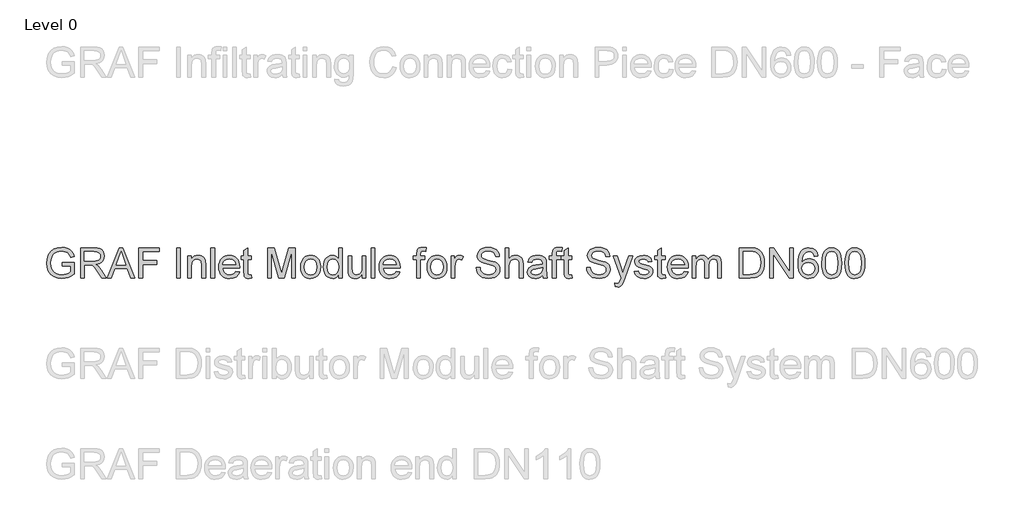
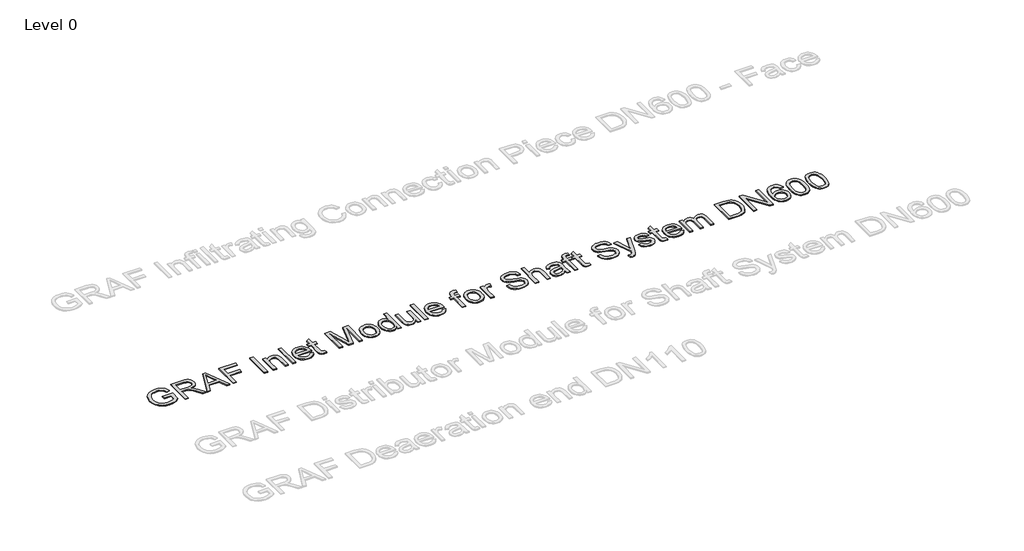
# One storey, part 8 of 25: 1 proxy.
"""IFC4 building model written with IfcOpenShell, lengths in millimetres."""

import ifcopenshell
import ifcopenshell.guid

model = None  # the IFC model being written
_history = None  # IfcOwnerHistory: only IFC2X3 demands one
_inside = {}  # id of a spatial element -> (the spatial element, [elements in it])
_under = {}  # id of a project, library or spatial element -> (it, [spatial elements below it])
_declared = {}  # id of a project -> (the project, [libraries it declares])
_typed = {}  # id of a type object -> (the type object, [elements of that type])
_made_of = {}  # id of a material, layer set ... -> (it, [elements and type objects made of it])


def new_model(schema):
    """Start an empty IFC model of exactly this schema.

    Asked for "IFC4X3", IfcOpenShell would pick the latest addendum, in which some entities
    have other attributes; the version numbers below select the first issue.
    IFC2X3 requires an IfcOwnerHistory on every rooted entity: one is made here for all.
    """
    global model, _history
    if schema == "IFC4X3":
        model = ifcopenshell.file(schema_version=(4, 3, 0, 0))
    else:
        model = ifcopenshell.file(schema=schema)
    _inside.clear()
    _under.clear()
    _declared.clear()
    _typed.clear()
    _made_of.clear()
    _history = None
    if model.schema == "IFC2X3":
        org = make("IfcOrganization", Name="unknown")
        user = make(
            "IfcPersonAndOrganization",
            ThePerson=make("IfcPerson", FamilyName="unknown"),
            TheOrganization=org,
        )
        app = make(
            "IfcApplication",
            ApplicationDeveloper=org,
            Version="unknown",
            ApplicationFullName="unknown",
            ApplicationIdentifier="unknown",
        )
        _history = make(
            "IfcOwnerHistory",
            OwningUser=user,
            OwningApplication=app,
            ChangeAction="ADDED",
            CreationDate=0,
        )
    return model


def make(cls, **values):
    """One entity of the class cls with the attributes given. An attribute that is None is left unset."""
    return model.create_entity(
        cls, **{name: value for name, value in values.items() if value is not None}
    )


def rooted(cls, **values):
    """An entity with a GlobalId (a new one), such as an element, a storey or a relation."""
    return make(cls, GlobalId=ifcopenshell.guid.new(), OwnerHistory=_history, **values)


def si_unit(unit_type, name, prefix=None):
    """IfcSIUnit, for example si_unit("LENGTHUNIT", "METRE", prefix="MILLI")."""
    return make("IfcSIUnit", UnitType=unit_type, Prefix=prefix, Name=name)


def assignment(units):
    """IfcUnitAssignment: the units of a project."""
    return None if units is None else make("IfcUnitAssignment", Units=units)


def point(xyz):
    """IfcCartesianPoint."""
    return None if xyz is None else make("IfcCartesianPoint", Coordinates=xyz)


def direction(xyz):
    """IfcDirection."""
    return None if xyz is None else make("IfcDirection", DirectionRatios=xyz)


def frame(location, z_axis=None, x_axis=None):
    """IfcAxis2Placement3D, a coordinate frame: its origin and axes. An axis left out is left unset."""
    return make(
        "IfcAxis2Placement3D",
        Location=point(location),
        Axis=direction(z_axis),
        RefDirection=direction(x_axis),
    )


def origin():
    """The frame at (0, 0, 0) with its axes left unset."""
    return frame((0.0, 0.0, 0.0))


def origin_with_axes():
    """The frame at (0, 0, 0) with the z axis (0, 0, 1) and the x axis (1, 0, 0) written out."""
    return frame((0.0, 0.0, 0.0), z_axis=(0.0, 0.0, 1.0), x_axis=(1.0, 0.0, 0.0))


def place(relative_to, where):
    """IfcLocalPlacement: puts the frame where relative to a parent placement (None: the world)."""
    return make(
        "IfcLocalPlacement", PlacementRelTo=relative_to, RelativePlacement=where
    )


def context(
    kind, dimensions, precision=None, world=None, true_north=None, identifier=None
):
    """IfcGeometricRepresentationContext, for example the 3D "Model" context."""
    return make(
        "IfcGeometricRepresentationContext",
        ContextIdentifier=identifier,
        ContextType=kind,
        CoordinateSpaceDimension=dimensions,
        Precision=precision,
        WorldCoordinateSystem=world,
        TrueNorth=true_north,
    )


def project(units=None, contexts=None):
    """IfcProject with its units and contexts."""
    return rooted(
        "IfcProject",
        Name="project",
        RepresentationContexts=contexts,
        UnitsInContext=assignment(units),
    )


def spatial(cls, under=None, at=None, **own):
    """A site, building, storey or space (cls), placed at a placement, below another one or the project."""
    s = rooted(cls, ObjectPlacement=at, **own)
    if under is not None:
        _under.setdefault(under.id(), (under, []))[1].append(s)
    return s


def polyline(points):
    """IfcPolyline through the points."""
    return make("IfcPolyline", Points=[point(p) for p in points])


def outline(outer, holes=None, kind="AREA"):
    """IfcArbitraryClosedProfileDef: a profile drawn as a closed curve; with holes, ...WithVoids."""
    if holes is None:
        return make("IfcArbitraryClosedProfileDef", ProfileType=kind, OuterCurve=outer)
    return make(
        "IfcArbitraryProfileDefWithVoids",
        ProfileType=kind,
        OuterCurve=outer,
        InnerCurves=holes,
    )


def extrude(swept, where, along, depth):
    """IfcExtrudedAreaSolid: the profile swept, set in the frame where, extruded along a direction by depth."""
    return make(
        "IfcExtrudedAreaSolid",
        SweptArea=swept,
        Position=where,
        ExtrudedDirection=direction(along),
        Depth=depth,
    )


def shape(context_of_items, identifier, shape_type, items):
    """IfcShapeRepresentation: the items that make up one representation, for example the "Body"."""
    return make(
        "IfcShapeRepresentation",
        ContextOfItems=context_of_items,
        RepresentationIdentifier=identifier,
        RepresentationType=shape_type,
        Items=items,
    )


def made_of(thing, what):
    """Note that an element or type object is made of a material, layer set ...; save() writes the relation."""
    if what is not None:
        _made_of.setdefault(what.id(), (what, []))[1].append(thing)
    return thing


def element(
    cls,
    number,
    at=None,
    inside=None,
    cuts=None,
    type_object=None,
    material=None,
    context=None,
    identifier="Body",
    shape_type=None,
    held_by="IfcProductDefinitionShape",
    body=None,
    shapes=None,
    **own,
):
    """One element of the class cls, such as IfcWall. Its Tag is "e" and its number.

    at: its placement. inside: the storey or other place that contains it. cuts: it is an
    opening in that element (IfcRelVoidsElement). A single representation is given by context,
    identifier, shape_type and body (its items); several are given by shapes. held_by: the class
    of the entity that holds the representations. save() writes the other relations.
    """
    e = rooted(cls, Tag="e%d" % number, ObjectPlacement=at, **own)
    if body is not None:
        shapes = [shape(context, identifier, shape_type, body)]
    if shapes is not None:
        e.Representation = make(held_by, Representations=shapes)
    if inside is not None:
        _inside.setdefault(inside.id(), (inside, []))[1].append(e)
    if cuts is not None:
        rooted(
            "IfcRelVoidsElement", RelatingBuildingElement=cuts, RelatedOpeningElement=e
        )
    if type_object is not None:
        _typed.setdefault(type_object.id(), (type_object, []))[1].append(e)
    return made_of(e, material)


def aggregate(whole, parts):
    """IfcRelAggregates: a whole, such as a stair, and the parts it consists of."""
    return rooted("IfcRelAggregates", RelatingObject=whole, RelatedObjects=parts)


def save(model, path):
    """Write the relations noted so far, then the file.

    IfcRelAggregates (storeys below a building ...), IfcRelContainedInSpatialStructure (elements
    in a storey), IfcRelDefinesByType, IfcRelAssociatesMaterial and IfcRelDeclares: one each for
    every whole, place, type object, material and project.
    """
    for whole, parts in _under.values():
        aggregate(whole, parts)
    for where, things in _inside.values():
        rooted(
            "IfcRelContainedInSpatialStructure",
            RelatedElements=things,
            RelatingStructure=where,
        )
    for kind, things in _typed.values():
        rooted("IfcRelDefinesByType", RelatedObjects=things, RelatingType=kind)
    for what, things in _made_of.values():
        rooted("IfcRelAssociatesMaterial", RelatedObjects=things, RelatingMaterial=what)
    for by, libraries in _declared.values():
        rooted("IfcRelDeclares", RelatingContext=by, RelatedDefinitions=libraries)
    model.write(path)


model = new_model("IFC4")

# Units and contexts
model_context = context("Model", 3, world=origin())
ifc_project = project(units=[si_unit("LENGTHUNIT", "METRE", prefix="MILLI")], contexts=[model_context])

# Site, building, storey
site = spatial("IfcSite", under=ifc_project)
building = spatial("IfcBuilding", under=site)
storey = spatial("IfcBuildingStorey", under=building, Name="Level 0", Elevation=0.0)

# Proxy
placement = place(None, origin())
element("IfcBuildingElementProxy", 1, Name="300mm Arial", ObjectType="300mm Arial", at=placement, inside=storey, context=model_context, shape_type="SweptSolid", body=[
    extrude(outline(polyline([(-15240.9940387, -4083.2545597), (-15240.9940387, -4045.5834434), (-15118.5629107, -4045.5834434), (-15118.5629107, -4158.2289103), (-15148.3153671, -4178.9222726), (-15179.0059225, -4193.7663111), (-15210.5610007, -4202.7058436), (-15242.9070251, -4205.6856877), (-15285.1674693, -4200.949207), (-15323.3628175, -4186.739765), (-15355.0926395, -4163.5540022), (-15377.9565055, -4131.8885595), (-15391.7796715, -4093.9047435), (-15396.3873935, -4051.7638609), (-15391.7980656, -4009.3194757), (-15378.0300819, -3969.8365406), (-15355.6536596, -3936.717964), (-15325.2390156, -3913.3666543), (-15288.1932987, -3899.5158972), (-15245.9236575, -3894.8989782), (-15214.8928112, -3897.5753197), (-15186.9889618, -3905.6043443), (-15163.4904994, -3918.4066377), (-15145.6758138, -3935.4027859), (-15132.4964413, -3957.4113262), (-15122.9039183, -3985.2507962), (-15157.6319786, -3995.0364573), (-15165.3850917, -3975.1800266), (-15174.8120678, -3960.1980323), (-15187.2832674, -3948.9040551), (-15204.169051, -3940.1116754), (-15224.3013932, -3934.4554897), (-15246.5122687, -3932.5700945), (-15272.5123287, -3934.6026425), (-15294.7415982, -3940.7002866), (-15313.1173039, -3950.0996716), (-15327.5566722, -3962.0374423), (-15346.9440533, -3991.0633317), (-15355.7732212, -4019.50061), (-15358.7162772, -4050.2187566), (-15355.175413, -4086.2436009), (-15344.5528204, -4115.8856927), (-15327.1703961, -4138.9334997), (-15303.3500369, -4155.1754898), (-15275.4737787, -4164.804801), (-15245.9236575, -4168.0145714), (-15219.831627, -4165.5957473), (-15194.3833899, -4158.3392749), (-15172.2828791, -4148.3420817), (-15156.234027, -4137.701095), (-15156.234027, -4083.2545597), (-15240.9940387, -4083.2545597)])), origin_with_axes(), (0.0, 0.0, 1.0), 10.0),
    extrude(outline(polyline([(-15057.3473467, -4200.9767982), (-15057.3473467, -3899.6078677), (-14927.4850024, -3899.6078677), (-14892.5821982, -3901.6404158), (-14867.1891434, -3907.7380598), (-14848.6294968, -3918.9952489), (-14834.2269167, -3936.5064318), (-14824.9838815, -3958.2206666), (-14821.9028698, -3982.087011), (-14827.0072325, -4011.7750881), (-14842.3203206, -4036.3863935), (-14853.9200997, -4046.4157764), (-14868.3019865, -4054.4310054), (-14905.4120827, -4064.4190016), (-14884.0013506, -4080.532233), (-14853.467145, -4119.3069952), (-14803.2144645, -4200.9767982), (-14846.9924219, -4200.9767982), (-14886.2086426, -4138.5104354), (-14914.5355562, -4097.1604991), (-14934.4379722, -4077.6259652), (-14952.3538253, -4070.4522663), (-14974.2060158, -4069.1278911), (-15019.6762304, -4069.1278911), (-15019.6762304, -4200.9767982), (-15057.3473467, -4200.9767982)]), holes=[polyline([(-15019.6762304, -4031.4567748), (-14935.3576771, -4031.4567748), (-14911.1418448, -4030.1232026), (-14892.3522719, -4026.1224859), (-14878.2072092, -4019.1879103), (-14867.9249074, -4009.0527613), (-14861.6617165, -3996.7930938), (-14859.5739861, -3983.4849626), (-14863.5563087, -3965.109257), (-14875.5032765, -3950.3020067), (-14896.058683, -3940.5347397), (-14925.8663217, -3937.278984), (-15019.6762304, -3937.278984), (-15019.6762304, -4031.4567748)])]), origin_with_axes(), (0.0, 0.0, 1.0), 10.0),
    extrude(outline(polyline([(-14791.0743586, -4200.9767982), (-14670.7769462, -3899.6078677), (-14638.6976362, -3899.6078677), (-14518.4002238, -4200.9767982), (-14558.2050557, -4200.9767982), (-14592.7123868, -4106.7990074), (-14716.835772, -4106.7990074), (-14751.2695268, -4200.9767982), (-14791.0743586, -4200.9767982)]), holes=[polyline([(-14703.003409, -4069.1278911), (-14606.4711735, -4069.1278911), (-14633.6208647, -3995.0364573), (-14654.7372912, -3937.278984), (-14673.499273, -3988.5617342), (-14703.003409, -4069.1278911)])]), origin_with_axes(), (0.0, 0.0, 1.0), 10.0),
    extrude(outline(polyline([(-14478.1539335, -4200.9767982), (-14478.1539335, -3899.6078677), (-14275.6716834, -3899.6078677), (-14275.6716834, -3937.278984), (-14440.4828172, -3937.278984), (-14440.4828172, -4026.7478853), (-14299.2161311, -4026.7478853), (-14299.2161311, -4064.4190016), (-14440.4828172, -4064.4190016), (-14440.4828172, -4200.9767982), (-14478.1539335, -4200.9767982)])), origin_with_axes(), (0.0, 0.0, 1.0), 10.0),
    extrude(outline(polyline([(-14101.4427705, -4200.9767982), (-14101.4427705, -3899.6078677), (-14063.7716542, -3899.6078677), (-14063.7716542, -4200.9767982), (-14101.4427705, -4200.9767982)])), origin_with_axes(), (0.0, 0.0, 1.0), 10.0),
    extrude(outline(polyline([(-13993.1383111, -4200.9767982), (-13993.1383111, -3979.6589899), (-13955.4671948, -3979.6589899), (-13955.4671948, -4010.5610775), (-13942.3797928, -3994.981275), (-13926.6620346, -3983.8528446), (-13908.3139201, -3977.1757864), (-13887.3354493, -3974.9501003), (-13868.7666056, -3976.7435251), (-13851.7612603, -3982.1237992), (-13837.5794094, -3990.4195382), (-13827.4810487, -4000.9593574), (-13816.1870714, -4028.6608716), (-13814.2005086, -4065.0811892), (-13814.2005086, -4200.9767982), (-13851.8716249, -4200.9767982), (-13851.8716249, -4070.1579607), (-13856.2126325, -4036.8278519), (-13862.2183061, -4026.9042351), (-13871.5533117, -4019.2063044), (-13883.5186736, -4014.2674886), (-13897.415416, -4012.6212166), (-13919.4791386, -4016.3184307), (-13938.2871056, -4027.4100729), (-13945.8033946, -4036.4645685), (-13951.1721725, -4048.8391991), (-13955.4671948, -4083.5488653), (-13955.4671948, -4200.9767982), (-13993.1383111, -4200.9767982)])), origin_with_axes(), (0.0, 0.0, 1.0), 10.0),
    extrude(outline(polyline([(-13762.4027237, -4200.9767982), (-13762.4027237, -3899.6078677), (-13724.7316074, -3899.6078677), (-13724.7316074, -4200.9767982), (-13762.4027237, -4200.9767982)])), origin_with_axes(), (0.0, 0.0, 1.0), 10.0),
    extrude(outline(polyline([(-13513.2730366, -4135.0523446), (-13476.3376843, -4139.7612342), (-13489.6458154, -4167.5915071), (-13510.8818036, -4188.3952339), (-13539.5674022, -4201.3630743), (-13575.2243646, -4205.6856877), (-13598.5986668, -4203.8209859), (-13619.4253863, -4198.2268803), (-13637.7045229, -4188.9033709), (-13653.4360768, -4175.8504579), (-13666.0866189, -4159.4314246), (-13675.1227204, -4140.0095545), (-13680.5443813, -4117.5848477), (-13682.3516016, -4092.157304), (-13680.5259872, -4065.8675369), (-13675.049144, -4042.6955698), (-13665.921072, -4022.6414025), (-13653.1417712, -4005.7050351), (-13637.4516041, -3992.2497512), (-13619.5909332, -3982.638834), (-13599.5597586, -3976.8722838), (-13577.3580801, -3974.9501003), (-13555.8714724, -3976.8676852), (-13536.4404052, -3982.6204399), (-13519.0648787, -3992.2083644), (-13503.7448929, -4005.6314587), (-13491.2392043, -4022.5310379), (-13482.3065696, -4042.548417), (-13476.9469888, -4065.6835959), (-13475.1604619, -4091.9365748), (-13475.3811911, -4102.0901179), (-13644.6804853, -4102.0901179), (-13638.1597769, -4130.2882728), (-13623.0122357, -4151.0184232), (-13601.1508482, -4163.7655344), (-13574.4886006, -4168.0145714), (-13554.4390318, -4166.0464027), (-13537.5532483, -4160.1418967), (-13523.8312498, -4149.9331713), (-13513.2730366, -4135.0523446)]), holes=[polyline([(-13644.6804853, -4064.4190016), (-13512.8315782, -4064.4190016), (-13517.9267438, -4044.5165856), (-13527.91474, -4030.2795524), (-13549.8772951, -4017.0358006), (-13577.5052329, -4012.6212166), (-13602.8982877, -4016.1436868), (-13623.8951525, -4026.7110971), (-13638.4908707, -4043.1830134), (-13644.6804853, -4064.4190016)])]), origin_with_axes(), (0.0, 0.0, 1.0), 10.0),
    extrude(outline(polyline([(-13357.4382234, -4169.5596758), (-13352.7293339, -4202.0804442), (-13380.9090947, -4205.6856877), (-13398.9904948, -4204.1221892), (-13412.4733699, -4199.4316938), (-13422.0015136, -4192.2028126), (-13428.2187193, -4183.0241568), (-13431.6400219, -4167.2604133), (-13432.780456, -4140.276269), (-13432.780456, -4017.3301062), (-13461.0337933, -4017.3301062), (-13461.0337933, -3979.6589899), (-13432.780456, -3979.6589899), (-13432.780456, -3925.8746422), (-13395.1093397, -3903.7281461), (-13395.1093397, -3979.6589899), (-13357.4382234, -3979.6589899), (-13357.4382234, -4017.3301062), (-13395.1093397, -4017.3301062), (-13395.1093397, -4139.172623), (-13393.122777, -4158.5967923), (-13386.684842, -4165.4761856), (-13373.8457604, -4168.0145714), (-13357.4382234, -4169.5596758)])), origin_with_axes(), (0.0, 0.0, 1.0), 10.0),
    extrude(outline(polyline([(-13197.3359791, -4200.9767982), (-13197.3359791, -3899.6078677), (-13132.5151716, -3899.6078677), (-13070.8581492, -4112.0229317), (-13058.4237378, -4156.3895004), (-13044.9592567, -4108.3441118), (-12984.3323039, -3899.6078677), (-12919.5114964, -3899.6078677), (-12919.5114964, -4200.9767982), (-12957.1826127, -4200.9767982), (-12957.1826127, -3937.278984), (-13032.8927273, -4200.9767982), (-13083.9547482, -4200.9767982), (-13159.6648628, -3937.278984), (-13159.6648628, -4200.9767982), (-13197.3359791, -4200.9767982)])), origin_with_axes(), (0.0, 0.0, 1.0), 10.0),
    extrude(outline(polyline([(-12867.7137115, -4090.317894), (-12865.6765649, -4061.6552881), (-12859.5651253, -4036.9566106), (-12849.3793925, -4016.2218617), (-12835.1193667, -3999.4510412), (-12820.7627718, -3988.7318796), (-12804.9162549, -3981.0753356), (-12787.5798159, -3976.4814091), (-12768.7534547, -3974.9501003), (-12747.9704213, -3976.8148022), (-12729.1785491, -3982.4089078), (-12712.3778383, -3991.7324171), (-12697.5682887, -4004.7853302), (-12685.4810659, -4021.1261885), (-12676.8473353, -4040.3135338), (-12671.667097, -4062.3473661), (-12669.9403508, -4087.2276853), (-12672.9937714, -4125.2850777), (-12682.1540331, -4154.2557848), (-12697.1544214, -4175.9516255), (-12717.728222, -4192.1844185), (-12742.1647835, -4202.3103704), (-12768.7534547, -4205.6856877), (-12789.8399909, -4203.8278836), (-12808.806607, -4198.2544714), (-12825.6533031, -4188.965451), (-12840.3800792, -4175.9608225), (-12852.3385433, -4159.461315), (-12860.8803034, -4139.6876578), (-12866.0053594, -4116.6398508), (-12867.7137115, -4090.317894)]), holes=[polyline([(-12830.0425951, -4090.2443176), (-12825.6831935, -4124.3377815), (-12812.6049886, -4148.6271903), (-12792.9233018, -4163.1677261), (-12768.7534547, -4168.0145714), (-12744.6939723, -4163.140135), (-12725.0490737, -4148.5168257), (-12711.9708688, -4123.9055202), (-12707.6114672, -4089.0670952), (-12711.9984599, -4055.9669127), (-12725.1594383, -4032.0085978), (-12744.831928, -4017.4680619), (-12768.7534547, -4012.6212166), (-12792.9233018, -4017.4496678), (-12812.6049886, -4031.9350214), (-12825.6831935, -4056.1692478), (-12830.0425951, -4090.2443176)])]), origin_with_axes(), (0.0, 0.0, 1.0), 10.0),
    extrude(outline(polyline([(-12491.0025484, -4200.9767982), (-12491.0025484, -4165.4393974), (-12502.273533, -4183.0471494), (-12515.9265536, -4195.6241151), (-12531.96161, -4203.1702946), (-12550.3787024, -4205.6856877), (-12574.7324905, -4202.043656), (-12597.0261394, -4191.1175607), (-12615.8984858, -4173.6707571), (-12629.9883662, -4150.4666002), (-12638.7623518, -4122.4431893), (-12641.6870136, -4090.5386232), (-12638.992278, -4059.0295303), (-12630.9080712, -4030.573858), (-12617.4435901, -4006.790287), (-12598.608032, -3989.2974982), (-12575.8269394, -3978.5369498), (-12550.5258552, -3974.9501003), (-12532.0949673, -3977.5160773), (-12515.7977949, -3985.214008), (-12501.9838259, -3997.013823), (-12491.0025484, -4011.8854527), (-12491.0025484, -3899.6078677), (-12453.3314321, -3899.6078677), (-12453.3314321, -4200.9767982), (-12491.0025484, -4200.9767982)]), holes=[polyline([(-12604.0158973, -4090.3914704), (-12599.7668603, -4124.4665402), (-12587.0197491, -4148.7007667), (-12568.4968907, -4163.1861202), (-12546.9206117, -4168.0145714), (-12525.3535297, -4163.4068494), (-12507.2997208, -4149.5836835), (-12495.0768415, -4126.2875561), (-12491.0025484, -4093.26095), (-12495.1504179, -4057.1533322), (-12507.5940264, -4032.1189624), (-12526.1076878, -4017.4956531), (-12548.465716, -4012.6212166), (-12570.2627243, -4017.302515), (-12588.1233951, -4031.3464102), (-12600.0427718, -4055.470272), (-12604.0158973, -4090.3914704)])]), origin_with_axes(), (0.0, 0.0, 1.0), 10.0),
    extrude(outline(polyline([(-12255.5580715, -4200.9767982), (-12255.5580715, -4162.9377999), (-12269.1880994, -4181.6400008), (-12285.0622075, -4194.9987158), (-12303.1803958, -4203.0139447), (-12323.5426642, -4205.6856877), (-12341.8907787, -4203.8094895), (-12358.9697003, -4198.180895), (-12373.298704, -4189.7196091), (-12383.3970648, -4179.3453369), (-12394.6174657, -4151.6070344), (-12396.8247576, -4116.5846685), (-12396.8247576, -3979.6589899), (-12359.1536413, -3979.6589899), (-12359.1536413, -4098.8527563), (-12356.8727729, -4137.2596366), (-12351.3821342, -4150.0711271), (-12341.9735521, -4159.8108029), (-12329.2724263, -4165.9636293), (-12313.9041559, -4168.0145714), (-12297.6529688, -4165.917644), (-12282.4502453, -4159.6268619), (-12269.9146663, -4149.7216392), (-12261.6649126, -4136.78139), (-12257.0847818, -4119.0586749), (-12255.5580715, -4094.8060544), (-12255.5580715, -3979.6589899), (-12217.8869552, -3979.6589899), (-12217.8869552, -4200.9767982), (-12255.5580715, -4200.9767982)])), origin_with_axes(), (0.0, 0.0, 1.0), 10.0),
    extrude(outline(polyline([(-12166.0891703, -4200.9767982), (-12166.0891703, -3899.6078677), (-12128.4180539, -3899.6078677), (-12128.4180539, -4200.9767982), (-12166.0891703, -4200.9767982)])), origin_with_axes(), (0.0, 0.0, 1.0), 10.0),
    extrude(outline(polyline([(-11916.9594831, -4135.0523446), (-11880.0241308, -4139.7612342), (-11893.332262, -4167.5915071), (-11914.5682501, -4188.3952339), (-11943.2538487, -4201.3630743), (-11978.9108111, -4205.6856877), (-12002.2851134, -4203.8209859), (-12023.1118328, -4198.2268803), (-12041.3909695, -4188.9033709), (-12057.1225233, -4175.8504579), (-12069.7730654, -4159.4314246), (-12078.8091669, -4140.0095545), (-12084.2308278, -4117.5848477), (-12086.0380481, -4092.157304), (-12084.2124337, -4065.8675369), (-12078.7355905, -4042.6955698), (-12069.6075185, -4022.6414025), (-12056.8282177, -4005.7050351), (-12041.1380506, -3992.2497512), (-12023.2773797, -3982.638834), (-12003.2462051, -3976.8722838), (-11981.0445267, -3974.9501003), (-11959.5579189, -3976.8676852), (-11940.1268518, -3982.6204399), (-11922.7513253, -3992.2083644), (-11907.4313394, -4005.6314587), (-11894.9256509, -4022.5310379), (-11885.9930162, -4042.548417), (-11880.6334354, -4065.6835959), (-11878.8469084, -4091.9365748), (-11879.0676376, -4102.0901179), (-12048.3669318, -4102.0901179), (-12041.8462234, -4130.2882728), (-12026.6986823, -4151.0184232), (-12004.8372947, -4163.7655344), (-11978.1750471, -4168.0145714), (-11958.1254784, -4166.0464027), (-11941.2396948, -4160.1418967), (-11927.5176964, -4149.9331713), (-11916.9594831, -4135.0523446)]), holes=[polyline([(-12048.3669318, -4064.4190016), (-11916.5180247, -4064.4190016), (-11921.6131904, -4044.5165856), (-11931.6011865, -4030.2795524), (-11953.5637416, -4017.0358006), (-11981.1916795, -4012.6212166), (-12006.5847342, -4016.1436868), (-12027.5815991, -4026.7110971), (-12042.1773172, -4043.1830134), (-12048.3669318, -4064.4190016)])]), origin_with_axes(), (0.0, 0.0, 1.0), 10.0),
    extrude(outline(polyline([(-11714.0357746, -4200.9767982), (-11714.0357746, -4017.3301062), (-11746.9980013, -4017.3301062), (-11746.9980013, -3979.6589899), (-11714.0357746, -3979.6589899), (-11714.0357746, -3957.365341), (-11710.062649, -3925.9482186), (-11702.4842799, -3913.4218366), (-11690.7856325, -3903.5074169), (-11674.4148837, -3897.0510879), (-11652.8202106, -3894.8989782), (-11618.4600322, -3899.0192565), (-11623.9782622, -3934.3359281), (-11645.6832999, -3932.5700945), (-11660.0031065, -3934.133593), (-11669.4116886, -3938.8240884), (-11674.6264158, -3947.782015), (-11676.3646583, -3962.1478069), (-11676.3646583, -3979.6589899), (-11633.9846524, -3979.6589899), (-11633.9846524, -4017.3301062), (-11676.3646583, -4017.3301062), (-11676.3646583, -4200.9767982), (-11714.0357746, -4200.9767982)])), origin_with_axes(), (0.0, 0.0, 1.0), 10.0),
    extrude(outline(polyline([(-11610.4402047, -4090.317894), (-11608.4030582, -4061.6552881), (-11602.2916185, -4036.9566106), (-11592.1058858, -4016.2218617), (-11577.84586, -3999.4510412), (-11563.4892651, -3988.7318796), (-11547.6427482, -3981.0753356), (-11530.3063091, -3976.4814091), (-11511.479948, -3974.9501003), (-11490.6969146, -3976.8148022), (-11471.9050424, -3982.4089078), (-11455.1043315, -3991.7324171), (-11440.294782, -4004.7853302), (-11428.2075592, -4021.1261885), (-11419.5738286, -4040.3135338), (-11414.3935902, -4062.3473661), (-11412.6668441, -4087.2276853), (-11415.7202647, -4125.2850777), (-11424.8805264, -4154.2557848), (-11439.8809147, -4175.9516255), (-11460.4547153, -4192.1844185), (-11484.8912768, -4202.3103704), (-11511.479948, -4205.6856877), (-11532.5664841, -4203.8278836), (-11551.5331003, -4198.2544714), (-11568.3797964, -4188.965451), (-11583.1065725, -4175.9608225), (-11595.0650366, -4159.461315), (-11603.6067967, -4139.6876578), (-11608.7318527, -4116.6398508), (-11610.4402047, -4090.317894)]), holes=[polyline([(-11572.7690884, -4090.2443176), (-11568.4096868, -4124.3377815), (-11555.3314819, -4148.6271903), (-11535.6497951, -4163.1677261), (-11511.479948, -4168.0145714), (-11487.4204655, -4163.140135), (-11467.775567, -4148.5168257), (-11454.6973621, -4123.9055202), (-11450.3379604, -4089.0670952), (-11454.7249532, -4055.9669127), (-11467.8859316, -4032.0085978), (-11487.5584213, -4017.4680619), (-11511.479948, -4012.6212166), (-11535.6497951, -4017.4496678), (-11555.3314819, -4031.9350214), (-11568.4096868, -4056.1692478), (-11572.7690884, -4090.2443176)])]), origin_with_axes(), (0.0, 0.0, 1.0), 10.0),
    extrude(outline(polyline([(-11370.2868383, -4200.9767982), (-11370.2868383, -3979.6589899), (-11337.3246115, -3979.6589899), (-11337.3246115, -4012.4004875), (-11325.1477175, -3993.4177765), (-11313.9273166, -3982.2341638), (-11302.6701276, -3976.7711162), (-11290.3828689, -3974.9501003), (-11271.6208872, -3977.8563681), (-11252.5645998, -3986.5751714), (-11265.1461641, -4020.3467385), (-11278.3899159, -4014.5525971), (-11291.6336677, -4012.6212166), (-11302.8816597, -4014.4790207), (-11312.9340352, -4020.052433), (-11321.0550303, -4028.918389), (-11326.5088809, -4040.6538247), (-11331.0890117, -4061.6966748), (-11332.615722, -4084.6525113), (-11332.615722, -4200.9767982), (-11370.2868383, -4200.9767982)])), origin_with_axes(), (0.0, 0.0, 1.0), 10.0),
    extrude(outline(polyline([(-11120.7156928, -4097.3812283), (-11083.0445764, -4097.3812283), (-11078.721963, -4118.2861227), (-11070.9044706, -4135.0891328), (-11058.7091825, -4148.4248552), (-11041.2531818, -4158.9278861), (-11019.9160261, -4165.7429001), (-10996.0772728, -4168.0145714), (-10975.089605, -4166.2947231), (-10956.7138993, -4161.1351781), (-10941.8238756, -4152.9681978), (-10931.2932534, -4142.2260435), (-10925.0300625, -4129.8927997), (-10922.9423321, -4116.9525505), (-10924.5058306, -4104.3433951), (-10929.1963261, -4093.444891), (-10938.7244697, -4084.1466736), (-10954.8009129, -4076.3383782), (-11009.6521184, -4061.9541922), (-11045.6585687, -4052.4352456), (-11068.6971786, -4043.3761514), (-11087.4499633, -4030.7026167), (-11100.7397004, -4015.3435434), (-11108.6583604, -3997.6300253), (-11111.2979137, -3977.8931563), (-11108.032961, -3955.8294336), (-11098.2381029, -3935.2556331), (-11082.1708567, -3917.8180265), (-11060.08874, -3905.1628859), (-11033.5828422, -3897.4649551), (-11004.2442531, -3894.8989782), (-10972.4592487, -3897.5845168), (-10944.6473699, -3905.6411325), (-10921.801898, -3918.9032784), (-10904.9161144, -3937.2054076), (-10894.2291424, -3959.407086), (-10889.9801054, -3984.3678794), (-10927.6512217, -3984.3678794), (-10934.5674032, -3961.8902895), (-10948.9883774, -3945.6666935), (-10971.5211496, -3935.8442443), (-11002.7727251, -3932.5700945), (-11034.7600646, -3935.8074561), (-11056.7042256, -3945.5195407), (-11069.3961544, -3959.8117562), (-11073.6267974, -3976.7895103), (-11070.6285591, -3991.2656668), (-11061.6338443, -4002.909132), (-11040.370265, -4013.3201924), (-11000.1239747, -4023.9519821), (-10958.5900975, -4034.0503429), (-10933.4637572, -4042.8611167), (-10911.9886457, -4056.5279328), (-10897.0066515, -4073.3953223), (-10888.2050748, -4093.2793441), (-10885.2712158, -4115.9960573), (-10888.6465331, -4139.2186082), (-10898.7724851, -4161.0616017), (-10915.2352043, -4179.8603717), (-10937.6208238, -4193.9502521), (-10964.5405888, -4202.7518288), (-10994.6057448, -4205.6856877), (-11031.513506, -4202.5219026), (-11061.8913617, -4193.0305471), (-11086.0888, -4177.1748331), (-11104.4553086, -4154.9179724), (-11116.2459265, -4127.8050693), (-11120.7156928, -4097.3812283)])), origin_with_axes(), (0.0, 0.0, 1.0), 10.0),
    extrude(outline(polyline([(-10833.4734309, -4200.9767982), (-10833.4734309, -3899.6078677), (-10795.8023146, -3899.6078677), (-10795.8023146, -4010.4139247), (-10781.9653531, -3994.8985015), (-10766.4269373, -3983.8160564), (-10749.1870673, -3977.1665894), (-10730.2457431, -3974.9501003), (-10707.4922417, -3977.3689245), (-10687.9393136, -3984.6253968), (-10672.5434521, -3996.1493003), (-10662.2611504, -4011.3704179), (-10656.4670089, -4032.2845093), (-10654.5356285, -4060.8873344), (-10654.5356285, -4200.9767982), (-10692.2067448, -4200.9767982), (-10692.2067448, -4064.7868836), (-10695.204983, -4041.2056477), (-10704.1996978, -4025.0556281), (-10718.6942484, -4015.7298195), (-10738.1919942, -4012.6212166), (-10754.1120875, -4014.718144), (-10769.0572936, -4021.0089261), (-10781.4365227, -4030.8865577), (-10789.6586853, -4043.7440334), (-10794.2664073, -4060.8321521), (-10795.8023146, -4083.4017125), (-10795.8023146, -4200.9767982), (-10833.4734309, -4200.9767982)])), origin_with_axes(), (0.0, 0.0, 1.0), 10.0),
    extrude(outline(polyline([(-10461.4711574, -4172.7234609), (-10479.469784, -4188.1561106), (-10498.0018395, -4198.2544714), (-10517.4903882, -4203.8278836), (-10538.3584944, -4205.6856877), (-10569.8399961, -4201.2159215), (-10593.0625471, -4187.8066228), (-10607.3823537, -4167.4443543), (-10612.1556226, -4142.1156789), (-10610.3530008, -4126.4990883), (-10604.9451355, -4112.3172373), (-10596.6034113, -4100.1771315), (-10585.9992128, -4090.685776), (-10559.6220737, -4078.324941), (-10527.0277289, -4072.6595583), (-10488.510484, -4066.6998699), (-10461.6918866, -4059.710112), (-10461.4711574, -4051.3224025), (-10464.0647255, -4034.5101954), (-10471.8454297, -4023.5105237), (-10489.246248, -4015.3435434), (-10513.4896715, -4012.6212166), (-10535.9304732, -4014.4330355), (-10551.6022462, -4019.868492), (-10562.2892182, -4029.9208675), (-10569.7756168, -4045.5834434), (-10607.4467331, -4040.8745539), (-10600.9076306, -4020.2731621), (-10591.1495607, -4004.0863544), (-10577.2620154, -3991.7071252), (-10558.3344867, -3982.5284694), (-10535.1855122, -3976.8446926), (-10508.6336292, -3974.9501003), (-10483.1669981, -3976.6239634), (-10462.9794736, -3981.6455527), (-10447.758356, -3989.1963306), (-10437.1909457, -3998.4577598), (-10430.1827937, -4009.9080869), (-10425.6394511, -4024.0255585), (-10423.8000411, -4056.9877853), (-10423.8000411, -4103.8559515), (-10421.8870547, -4169.3021584), (-10414.382262, -4200.9767982), (-10452.0533783, -4200.9767982), (-10461.4711574, -4172.7234609)]), holes=[polyline([(-10461.4711574, -4097.3812283), (-10522.245263, -4108.932723), (-10554.6556668, -4115.0395641), (-10569.3341584, -4124.972378), (-10574.4845063, -4139.4669286), (-10571.6794061, -4150.6689353), (-10563.2641055, -4159.8475911), (-10549.4225454, -4165.9728263), (-10530.3386669, -4168.0145714), (-10510.1051572, -4165.7612942), (-10492.2260922, -4159.0014625), (-10477.7315416, -4149.0410575), (-10467.6515749, -4137.1860602), (-10463.1818087, -4124.972378), (-10461.6918866, -4108.0498062), (-10461.4711574, -4097.3812283)])]), origin_with_axes(), (0.0, 0.0, 1.0), 10.0),
    extrude(outline(polyline([(-10362.5844771, -4200.9767982), (-10362.5844771, -4017.3301062), (-10395.5467039, -4017.3301062), (-10395.5467039, -3979.6589899), (-10362.5844771, -3979.6589899), (-10362.5844771, -3957.365341), (-10358.6113515, -3925.9482186), (-10351.0329824, -3913.4218366), (-10339.334335, -3903.5074169), (-10322.9635862, -3897.0510879), (-10301.3689131, -3894.8989782), (-10267.0087347, -3899.0192565), (-10272.5269647, -3934.3359281), (-10294.2320024, -3932.5700945), (-10308.5518091, -3934.133593), (-10317.9603911, -3938.8240884), (-10323.1751184, -3947.782015), (-10324.9133608, -3962.1478069), (-10324.9133608, -3979.6589899), (-10282.5333549, -3979.6589899), (-10282.5333549, -4017.3301062), (-10324.9133608, -4017.3301062), (-10324.9133608, -4200.9767982), (-10362.5844771, -4200.9767982)])), origin_with_axes(), (0.0, 0.0, 1.0), 10.0),
    extrude(outline(polyline([(-10169.520006, -4169.5596758), (-10164.8111165, -4202.0804442), (-10192.9908773, -4205.6856877), (-10211.0722774, -4204.1221892), (-10224.5551525, -4199.4316938), (-10234.0832962, -4192.2028126), (-10240.3005019, -4183.0241568), (-10243.7218045, -4167.2604133), (-10244.8622386, -4140.276269), (-10244.8622386, -4017.3301062), (-10273.1155759, -4017.3301062), (-10273.1155759, -3979.6589899), (-10244.8622386, -3979.6589899), (-10244.8622386, -3925.8746422), (-10207.1911223, -3903.7281461), (-10207.1911223, -3979.6589899), (-10169.520006, -3979.6589899), (-10169.520006, -4017.3301062), (-10207.1911223, -4017.3301062), (-10207.1911223, -4139.172623), (-10205.2045596, -4158.5967923), (-10198.7666246, -4165.4761856), (-10185.927543, -4168.0145714), (-10169.520006, -4169.5596758)])), origin_with_axes(), (0.0, 0.0, 1.0), 10.0),
    extrude(outline(polyline([(-10023.5444303, -4097.3812283), (-9985.873314, -4097.3812283), (-9981.5507006, -4118.2861227), (-9973.7332082, -4135.0891328), (-9961.5379201, -4148.4248552), (-9944.0819194, -4158.9278861), (-9922.7447637, -4165.7429001), (-9898.9060104, -4168.0145714), (-9877.9183425, -4166.2947231), (-9859.5426369, -4161.1351781), (-9844.6526131, -4152.9681978), (-9834.121991, -4142.2260435), (-9827.8588001, -4129.8927997), (-9825.7710697, -4116.9525505), (-9827.3345682, -4104.3433951), (-9832.0250637, -4093.444891), (-9841.5532073, -4084.1466736), (-9857.6296505, -4076.3383782), (-9912.480856, -4061.9541922), (-9948.4873063, -4052.4352456), (-9971.5259162, -4043.3761514), (-9990.2787009, -4030.7026167), (-10003.568438, -4015.3435434), (-10011.4870979, -3997.6300253), (-10014.1266513, -3977.8931563), (-10010.8616986, -3955.8294336), (-10001.0668404, -3935.2556331), (-9984.9995943, -3917.8180265), (-9962.9174775, -3905.1628859), (-9936.4115798, -3897.4649551), (-9907.0729907, -3894.8989782), (-9875.2879863, -3897.5845168), (-9847.4761074, -3905.6411325), (-9824.6306355, -3918.9032784), (-9807.744852, -3937.2054076), (-9797.05788, -3959.407086), (-9792.808843, -3984.3678794), (-9830.4799593, -3984.3678794), (-9837.3961408, -3961.8902895), (-9851.817115, -3945.6666935), (-9874.3498872, -3935.8442443), (-9905.6014627, -3932.5700945), (-9937.5888022, -3935.8074561), (-9959.5329632, -3945.5195407), (-9972.224892, -3959.8117562), (-9976.455535, -3976.7895103), (-9973.4572967, -3991.2656668), (-9964.4625819, -4002.909132), (-9943.1990026, -4013.3201924), (-9902.9527123, -4023.9519821), (-9861.4188351, -4034.0503429), (-9836.2924948, -4042.8611167), (-9814.8173833, -4056.5279328), (-9799.8353891, -4073.3953223), (-9791.0338123, -4093.2793441), (-9788.0999534, -4115.9960573), (-9791.4752707, -4139.2186082), (-9801.6012227, -4161.0616017), (-9818.0639419, -4179.8603717), (-9840.4495613, -4193.9502521), (-9867.3693263, -4202.7518288), (-9897.4344824, -4205.6856877), (-9934.3422436, -4202.5219026), (-9964.7200993, -4193.0305471), (-9988.9175375, -4177.1748331), (-10007.2840462, -4154.9179724), (-10019.0746641, -4127.8050693), (-10023.5444303, -4097.3812283)])), origin_with_axes(), (0.0, 0.0, 1.0), 10.0),
    extrude(outline(polyline([(-9736.3021685, -4285.7368099), (-9741.011058, -4249.4636451), (-9721.8811943, -4252.7745831), (-9704.0021293, -4248.6175166), (-9693.0392459, -4237.0292337), (-9682.73855, -4209.2909313), (-9679.795494, -4200.1674578), (-9759.8466162, -3979.6589899), (-9720.1153607, -3979.6589899), (-9677.6617785, -4102.5315763), (-9662.8729223, -4151.6806108), (-9648.0840661, -4108.2705354), (-9604.4532614, -3979.6589899), (-9565.0163116, -3979.6589899), (-9642.0508013, -4206.2742989), (-9662.0635819, -4255.4233335), (-9672.3090954, -4271.1135006), (-9683.9157724, -4281.9844135), (-9697.3986475, -4288.3303779), (-9713.2727556, -4290.4456994), (-9736.3021685, -4285.7368099)])), origin_with_axes(), (0.0, 0.0, 1.0), 10.0),
    extrude(outline(polyline([(-9547.946587, -4135.0523446), (-9510.2754707, -4130.3434551), (-9504.3341764, -4146.4566865), (-9492.8378641, -4158.3024867), (-9475.7129572, -4165.5865502), (-9452.8858794, -4168.0145714), (-9430.3347131, -4165.7888853), (-9414.4789991, -4159.1118271), (-9405.0980082, -4149.4365307), (-9401.9710113, -4138.2161298), (-9405.1164023, -4128.6144097), (-9414.5525755, -4121.293558), (-9453.3273378, -4110.5514038), (-9510.0547415, -4092.1205158), (-9524.4113363, -4082.8590866), (-9534.8131997, -4070.5994191), (-9541.131573, -4056.1232626), (-9543.2376974, -4040.2123663), (-9541.5454403, -4025.6166481), (-9536.4686687, -4012.1429701), (-9528.4672353, -4000.324761), (-9518.0009926, -3990.6954497), (-9494.0518747, -3979.5486253), (-9461.6414709, -3974.9501003), (-9437.1221359, -3976.7987074), (-9415.8033743, -3982.3445284), (-9398.6600733, -3991.0449376), (-9386.6671203, -4002.357309), (-9378.7208692, -4017.118574), (-9373.7176741, -4036.1656643), (-9411.3887904, -4040.8745539), (-9416.1436652, -4029.0195566), (-9425.5522472, -4020.0892211), (-9439.7065069, -4014.4882178), (-9458.6984149, -4012.6212166), (-9480.3298763, -4014.4054443), (-9494.7508505, -4019.7581274), (-9502.8626485, -4027.4836493), (-9505.5665811, -4036.3863935), (-9501.0784208, -4047.349277), (-9487.0253286, -4055.6634101), (-9454.5781366, -4063.6832376), (-9399.2854727, -4081.4151497), (-9384.6805575, -4089.8948297), (-9373.6073095, -4101.5015067), (-9366.6267486, -4116.2719688), (-9364.299895, -4134.2430043), (-9367.0314188, -4152.821045), (-9375.2259902, -4170.2954398), (-9388.5709096, -4185.2958281), (-9406.7534772, -4196.4518496), (-9428.7160323, -4203.3772282), (-9453.4009142, -4205.6856877), (-9491.3847302, -4201.2343156), (-9519.1046386, -4187.8801991), (-9537.6091029, -4165.7704912), (-9547.946587, -4135.0523446)])), origin_with_axes(), (0.0, 0.0, 1.0), 10.0),
    extrude(outline(polyline([(-9241.868767, -4169.5596758), (-9237.1598775, -4202.0804442), (-9265.3396383, -4205.6856877), (-9283.4210383, -4204.1221892), (-9296.9039135, -4199.4316938), (-9306.4320571, -4192.2028126), (-9312.6492629, -4183.0241568), (-9316.0705654, -4167.2604133), (-9317.2109996, -4140.276269), (-9317.2109996, -4017.3301062), (-9345.4643368, -4017.3301062), (-9345.4643368, -3979.6589899), (-9317.2109996, -3979.6589899), (-9317.2109996, -3925.8746422), (-9279.5398833, -3903.7281461), (-9279.5398833, -3979.6589899), (-9241.868767, -3979.6589899), (-9241.868767, -4017.3301062), (-9279.5398833, -4017.3301062), (-9279.5398833, -4139.172623), (-9277.5533205, -4158.5967923), (-9271.1153856, -4165.4761856), (-9258.276304, -4168.0145714), (-9241.868767, -4169.5596758)])), origin_with_axes(), (0.0, 0.0, 1.0), 10.0),
    extrude(outline(polyline([(-9049.2457543, -4135.0523446), (-9012.310402, -4139.7612342), (-9025.6185332, -4167.5915071), (-9046.8545213, -4188.3952339), (-9075.5401199, -4201.3630743), (-9111.1970823, -4205.6856877), (-9134.5713846, -4203.8209859), (-9155.398104, -4198.2268803), (-9173.6772407, -4188.9033709), (-9189.4087945, -4175.8504579), (-9202.0593366, -4159.4314246), (-9211.0954381, -4140.0095545), (-9216.517099, -4117.5848477), (-9218.3243193, -4092.157304), (-9216.4987049, -4065.8675369), (-9211.0218617, -4042.6955698), (-9201.8937897, -4022.6414025), (-9189.1144889, -4005.7050351), (-9173.4243218, -3992.2497512), (-9155.5636509, -3982.638834), (-9135.5324763, -3976.8722838), (-9113.3307979, -3974.9501003), (-9091.8441901, -3976.8676852), (-9072.413123, -3982.6204399), (-9055.0375965, -3992.2083644), (-9039.7176106, -4005.6314587), (-9027.2119221, -4022.5310379), (-9018.2792874, -4042.548417), (-9012.9197066, -4065.6835959), (-9011.1331796, -4091.9365748), (-9011.3539088, -4102.0901179), (-9180.653203, -4102.0901179), (-9174.1324946, -4130.2882728), (-9158.9849535, -4151.0184232), (-9137.1235659, -4163.7655344), (-9110.4613183, -4168.0145714), (-9090.4117496, -4166.0464027), (-9073.525966, -4160.1418967), (-9059.8039676, -4149.9331713), (-9049.2457543, -4135.0523446)]), holes=[polyline([(-9180.653203, -4064.4190016), (-9048.8042959, -4064.4190016), (-9053.8994616, -4044.5165856), (-9063.8874577, -4030.2795524), (-9085.8500128, -4017.0358006), (-9113.4779507, -4012.6212166), (-9138.8710054, -4016.1436868), (-9159.8678703, -4026.7110971), (-9174.4635884, -4043.1830134), (-9180.653203, -4064.4190016)])]), origin_with_axes(), (0.0, 0.0, 1.0), 10.0),
    extrude(outline(polyline([(-8973.4620633, -4200.9767982), (-8973.4620633, -3979.6589899), (-8935.790947, -3979.6589899), (-8935.790947, -4016.0793074), (-8924.4601816, -3999.3498737), (-8909.8920545, -3986.2440776), (-8892.5832067, -3977.7735947), (-8873.0302786, -3974.9501003), (-8852.079399, -3977.828777), (-8835.2855859, -3986.4648068), (-8822.7408099, -4000.2879728), (-8814.5370414, -4018.7280578), (-8800.8058459, -3999.5752014), (-8785.14327, -3985.8945897), (-8767.5493136, -3977.6862227), (-8748.0239767, -3974.9501003), (-8719.7062601, -3979.50264), (-8698.7645775, -3993.1602591), (-8685.8243283, -4016.2908395), (-8681.5109119, -4049.2622634), (-8681.5109119, -4200.9767982), (-8719.1820282, -4200.9767982), (-8719.1820282, -4065.4490712), (-8722.6769072, -4033.9951606), (-8727.5881318, -4025.3223425), (-8735.3320478, -4018.5073286), (-8745.2924528, -4014.0927446), (-8756.8531445, -4012.6212166), (-8777.2613982, -4016.3920071), (-8793.8988615, -4027.7043784), (-8804.9629125, -4047.3308829), (-8808.6509295, -4076.0440726), (-8808.6509295, -4200.9767982), (-8846.3220458, -4200.9767982), (-8846.3220458, -4061.2552164), (-8848.5017466, -4039.9548489), (-8855.0408491, -4024.7613225), (-8866.5463585, -4015.6562431), (-8883.6252801, -4012.6212166), (-8898.1382248, -4014.6445676), (-8911.5107353, -4020.7146205), (-8922.5471952, -4030.6842226), (-8930.0519879, -4044.406221), (-8934.3562072, -4063.4441143), (-8935.790947, -4089.3614008), (-8935.790947, -4200.9767982), (-8973.4620633, -4200.9767982)])), origin_with_axes(), (0.0, 0.0, 1.0), 10.0),
    extrude(outline(polyline([(-8502.5731095, -4200.9767982), (-8502.5731095, -3899.6078677), (-8398.6096576, -3899.6078677), (-8344.8253099, -3903.9488753), (-8320.8026157, -3912.3181907), (-8300.5323177, -3925.5067602), (-8279.6918027, -3948.4625967), (-8264.8477642, -3977.0102395), (-8255.963414, -4010.5978657), (-8253.001964, -4048.6736522), (-8255.0069208, -4081.0196766), (-8261.0217914, -4109.484546), (-8270.1820531, -4133.7187724), (-8281.6231832, -4153.372868), (-8294.7933586, -4168.8882911), (-8309.1407564, -4180.7065002), (-8325.6126728, -4189.4712888), (-8345.1564037, -4195.8264502), (-8393.6064625, -4200.9767982), (-8502.5731095, -4200.9767982)]), holes=[polyline([(-8464.9019932, -4163.3056819), (-8398.2417756, -4163.3056819), (-8370.6690201, -4161.9445185), (-8349.7549287, -4157.8610283), (-8333.9727911, -4151.2943347), (-8321.7958971, -4142.4835609), (-8308.7084951, -4126.1771915), (-8298.8768488, -4105.069962), (-8292.7240224, -4079.069902), (-8290.6730803, -4048.085041), (-8294.6921911, -4007.0294103), (-8306.7495234, -3976.7159339), (-8324.5642091, -3955.893813), (-8345.8553795, -3943.3122488), (-8367.5236291, -3938.7873002), (-8399.2718452, -3937.278984), (-8464.9019932, -3937.278984), (-8464.9019932, -4163.3056819)])]), origin_with_axes(), (0.0, 0.0, 1.0), 10.0),
    extrude(outline(polyline([(-8201.204179, -4200.9767982), (-8201.204179, -3899.6078677), (-8160.8843124, -3899.6078677), (-8003.4308184, -4138.3632826), (-8003.4308184, -3899.6078677), (-7965.7597021, -3899.6078677), (-7965.7597021, -4200.9767982), (-8006.0795688, -4200.9767982), (-8163.5330627, -3962.1478069), (-8163.5330627, -4200.9767982), (-8201.204179, -4200.9767982)])), origin_with_axes(), (0.0, 0.0, 1.0), 10.0),
    extrude(outline(polyline([(-7720.8974461, -3979.6589899), (-7758.5685624, -3984.3678794), (-7764.6386154, -3965.6978682), (-7772.8423838, -3952.950757), (-7789.9305025, -3941.1969273), (-7810.5870766, -3937.278984), (-7828.0982595, -3939.5598524), (-7844.5793729, -3946.4024575), (-7858.7336327, -3960.8142347), (-7870.2943244, -3980.6522713), (-7878.1026197, -4008.7124704), (-7880.9996904, -4047.7907354), (-7865.8889375, -4030.1599908), (-7847.7799463, -4017.7347764), (-7827.6843923, -4010.3679394), (-7806.613951, -4007.9123271), (-7788.5141568, -4009.5907887), (-7771.8123143, -4014.6261735), (-7756.5084233, -4023.0184815), (-7742.6024838, -4034.7677128), (-7731.0463907, -4049.1748914), (-7722.7920384, -4065.5410417), (-7717.839427, -4083.8661635), (-7716.1885566, -4104.150257), (-7719.2971595, -4131.1252043), (-7728.622968, -4156.131983), (-7743.3934301, -4177.34038), (-7762.8359936, -4192.9201825), (-7786.0677416, -4202.4943114), (-7812.2057573, -4205.6856877), (-7834.6626539, -4203.5703662), (-7854.9444481, -4197.2244018), (-7873.0511401, -4186.6477945), (-7888.9827297, -4171.8405442), (-7901.9712634, -4152.1772515), (-7911.2487875, -4127.0325171), (-7916.8153019, -4096.406341), (-7918.6708067, -4060.2987232), (-7916.6106676, -4019.8179082), (-7910.43025, -3985.2691903), (-7900.1295542, -3956.6525696), (-7885.70858, -3933.9680461), (-7870.0781937, -3918.9354681), (-7851.9554069, -3908.1979123), (-7831.3402196, -3901.7553789), (-7808.2326318, -3899.6078677), (-7775.1784345, -3904.9237626), (-7748.709325, -3920.8714471), (-7730.1680724, -3946.2001224), (-7720.8974461, -3979.6589899)]), holes=[polyline([(-7880.9996904, -4103.5616459), (-7878.8199896, -4120.2542914), (-7872.2808871, -4136.1927788), (-7862.1273441, -4149.8963831), (-7849.1043214, -4159.8843793), (-7833.3865632, -4165.9820234), (-7815.1488133, -4168.0145714), (-7790.2891875, -4163.8023226), (-7770.7454565, -4151.165576), (-7758.0811188, -4131.2999483), (-7753.8596729, -4105.4010558), (-7758.0259365, -4080.54143), (-7770.5247273, -4061.5863102), (-7790.3995521, -4049.5841601), (-7816.6939177, -4045.5834434), (-7841.5167553, -4049.5841601), (-7862.2744969, -4061.5863102), (-7876.318392, -4080.0815775), (-7880.9996904, -4103.5616459)])]), origin_with_axes(), (0.0, 0.0, 1.0), 10.0),
    extrude(outline(polyline([(-7683.2263298, -4052.7203541), (-7680.4580178, -4004.4818275), (-7672.1530818, -3966.0105679), (-7658.3942951, -3936.717964), (-7639.2644314, -3916.0154047), (-7614.6255348, -3903.709752), (-7584.3396495, -3899.6078677), (-7561.1262956, -3902.0358889), (-7540.3409629, -3909.3199524), (-7522.9585386, -3921.1749497), (-7509.9539101, -3937.3157722), (-7500.1314608, -3957.6044643), (-7492.2955743, -3981.9030701), (-7487.1636205, -4012.7591724), (-7485.4529692, -4052.7203541), (-7488.1936901, -4100.6829692), (-7496.4158527, -4139.0622584), (-7510.0918658, -4168.3824534), (-7529.1941384, -4189.1677861), (-7553.8882174, -4201.5562123), (-7584.3396495, -4205.6856877), (-7605.088194, -4203.892263), (-7623.4822938, -4198.5119888), (-7639.5219488, -4189.5448652), (-7653.207159, -4176.9908921), (-7666.3405462, -4154.2971715), (-7675.7215371, -4126.0208417), (-7681.3501316, -4092.1619025), (-7683.2263298, -4052.7203541)]), holes=[polyline([(-7645.5552135, -4052.6467777), (-7641.1406296, -4111.9033701), (-7635.6223996, -4132.1713688), (-7627.8968777, -4146.1991691), (-7608.1784028, -4162.5607208), (-7584.3396495, -4168.0145714), (-7560.5008962, -4162.5423267), (-7540.7824213, -4146.1255927), (-7533.0568994, -4132.0747997), (-7527.5386695, -4111.8113996), (-7523.1240855, -4052.6467777), (-7527.3915167, -3994.7237576), (-7532.7258056, -3974.5224375), (-7540.1938101, -3960.1612441), (-7559.8754968, -3942.9995491), (-7584.7811079, -3937.278984), (-7608.3623438, -3942.3189674), (-7627.3082666, -3957.4389174), (-7635.2913059, -3973.0739022), (-7640.9934768, -3994.1535405), (-7645.5552135, -4052.6467777)])]), origin_with_axes(), (0.0, 0.0, 1.0), 10.0),
    extrude(outline(polyline([(-7452.4907424, -4052.7203541), (-7449.7224304, -4004.4818275), (-7441.4174944, -3966.0105679), (-7427.6587078, -3936.717964), (-7408.528844, -3916.0154047), (-7383.8899474, -3903.709752), (-7353.6040621, -3899.6078677), (-7330.3907082, -3902.0358889), (-7309.6053755, -3909.3199524), (-7292.2229513, -3921.1749497), (-7279.2183227, -3937.3157722), (-7269.3958734, -3957.6044643), (-7261.559987, -3981.9030701), (-7256.4280331, -4012.7591724), (-7254.7173818, -4052.7203541), (-7257.4581027, -4100.6829692), (-7265.6802653, -4139.0622584), (-7279.3562785, -4168.3824534), (-7298.4585511, -4189.1677861), (-7323.15263, -4201.5562123), (-7353.6040621, -4205.6856877), (-7374.3526067, -4203.892263), (-7392.7467064, -4198.5119888), (-7408.7863614, -4189.5448652), (-7422.4715716, -4176.9908921), (-7435.6049589, -4154.2971715), (-7444.9859497, -4126.0208417), (-7450.6145443, -4092.1619025), (-7452.4907424, -4052.7203541)]), holes=[polyline([(-7414.8196261, -4052.6467777), (-7410.4050422, -4111.9033701), (-7404.8868123, -4132.1713688), (-7397.1612904, -4146.1991691), (-7377.4428154, -4162.5607208), (-7353.6040621, -4168.0145714), (-7329.7653089, -4162.5423267), (-7310.0468339, -4146.1255927), (-7302.321312, -4132.0747997), (-7296.8030821, -4111.8113996), (-7292.3884981, -4052.6467777), (-7296.6559293, -3994.7237576), (-7301.9902182, -3974.5224375), (-7309.4582227, -3960.1612441), (-7329.1399095, -3942.9995491), (-7354.0455205, -3937.278984), (-7377.6267564, -3942.3189674), (-7396.5726792, -3957.4389174), (-7404.5557185, -3973.0739022), (-7410.2578894, -3994.1535405), (-7414.8196261, -4052.6467777)])]), origin_with_axes(), (0.0, 0.0, 1.0), 10.0),
])

save(model, "model.ifc")
